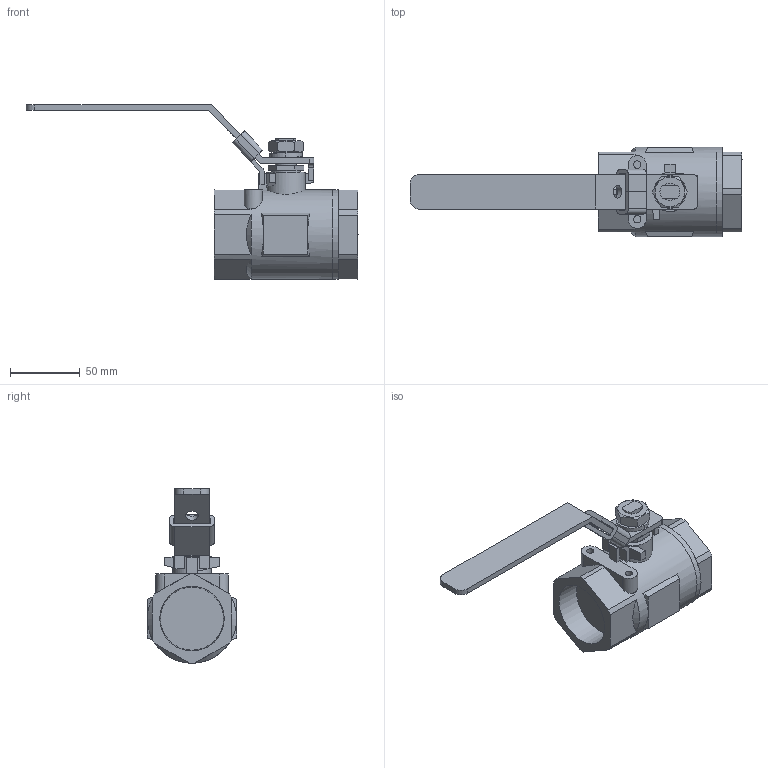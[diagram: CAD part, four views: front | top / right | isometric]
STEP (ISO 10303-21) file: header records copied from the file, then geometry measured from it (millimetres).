
FILE_DESCRIPTION((' '),'2;1');
FILE_NAME('N:\Technical Support\Private\Jomar Valve CAD\Ball Valves\CS and SS\2000N\1.5 T-CS[SS]-2000N (100-957 [100-937])FusionCopy.stp.step','2017-05-25T16:45:32',(' '),(' '),' ','ACIS',' ');
FILE_SCHEMA(('CONFIG_CONTROL_DESIGN'));
Length unit declared in the file: inch
Products named in the file (9): N:\Technical Support\Private\Jomar Valve CAD\Ball Valves\CS and SS\2000N\1.5 T-CS[SS]-2000N (100-957 [100-937])FusionCopy.stp.step; Body1; Body2; Body3; Body4; Body5; Body6; Body7; Body8
Assembly tree (8 placements, depth 2):
  N:\Technical Support\Private\Jomar Valve CAD\Ball Valves\CS and SS\2000N\1.5 T-CS[SS]-2000N (100-957 [100-937])FusionCopy.stp.step
    Body1
    Body2
    Body3
    Body4
    Body5
    Body6
    Body7
    Body8
Bounding box: 238.06 x 64.01 x 125.11 mm (x, y, z)
Volume: 308950.9 mm3; surface area: 63775.9 mm2
Topology: 8 solids, 8 shells, 180 faces, 457 edges, 300 vertices
Faces by surface type: plane 104, cylinder 36, bspline 23, cone 17
Full cylindrical faces by diameter (mm): 5.258 x1, 8.966 x1, 12.344 x1, 14.986 x1, 15.367 x1, 20.701 x1, 28.042 x1, 64.008 x2
Entity records: 6631 total; most frequent: CARTESIAN_POINT 1141, ORIENTED_EDGE 870, DIRECTION 869, EDGE_CURVE 435, VECTOR 295, LINE 295, VERTEX_POINT 293, AXIS2_PLACEMENT_3D 287
